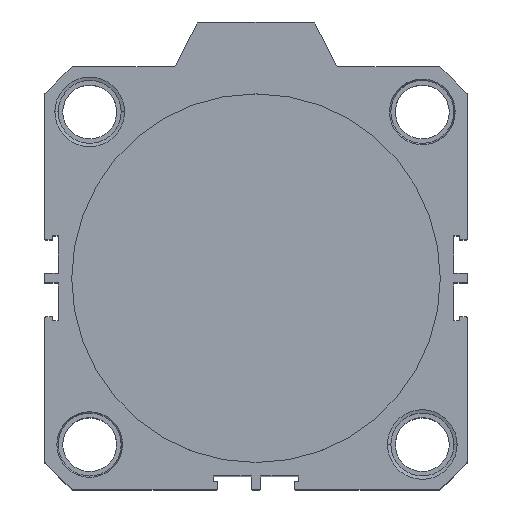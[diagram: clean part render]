
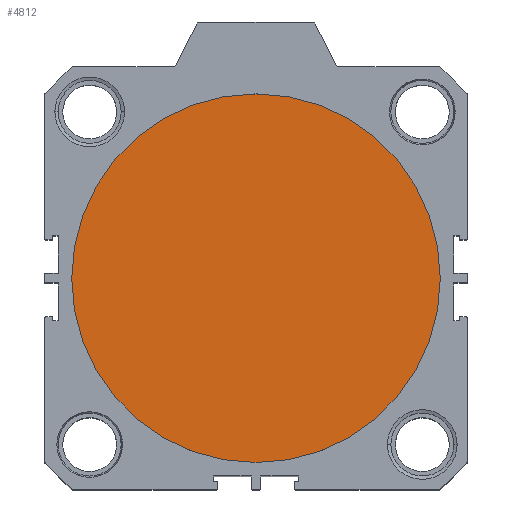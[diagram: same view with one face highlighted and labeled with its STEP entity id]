
A CAD part, top view. The second image highlights one B-rep face of the part: STEP entity #4812.
In plain terms, the highlighted planar face has unit normal (0, 0, 1) as drawn and (-1, 0, 0) by its records, which use the part's own axes.
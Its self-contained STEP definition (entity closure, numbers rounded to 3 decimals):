
#318 = EDGE_CURVE ( 'NONE', #7168, #4270, #3833, .T. ) ;
#924 = AXIS2_PLACEMENT_3D ( 'NONE', #1817, #3160, #1664 ) ;
#1620 = DIRECTION ( 'NONE',  ( 0., 0., 1. ) ) ;
#1664 = DIRECTION ( 'NONE',  ( 0., 0., 1. ) ) ;
#1817 = CARTESIAN_POINT ( 'NONE',  ( -0.8, 0., 0. ) ) ;
#2524 = ORIENTED_EDGE ( 'NONE', *, *, #318, .T. ) ;
#2643 = CIRCLE ( 'NONE', #3293, 41.002 ) ;
#3160 = DIRECTION ( 'NONE',  ( -1., 0., 0. ) ) ;
#3293 = AXIS2_PLACEMENT_3D ( 'NONE', #3745, #3738, #3734 ) ;
#3734 = DIRECTION ( 'NONE',  ( 0., 0., 1. ) ) ;
#3738 = DIRECTION ( 'NONE',  ( -1., 0., 0. ) ) ;
#3743 = ORIENTED_EDGE ( 'NONE', *, *, #7271, .T. ) ;
#3745 = CARTESIAN_POINT ( 'NONE',  ( -0.8, 0., 0. ) ) ;
#3833 = CIRCLE ( 'NONE', #924, 41.002 ) ;
#4270 = VERTEX_POINT ( 'NONE', #6897 ) ;
#4812 = ADVANCED_FACE ( 'NONE', ( #7686 ), #5327, .T. ) ;
#5283 = CARTESIAN_POINT ( 'NONE',  ( -0.8, 0., 0. ) ) ;
#5327 = PLANE ( 'NONE',  #7351 ) ;
#5734 = EDGE_LOOP ( 'NONE', ( #3743, #2524 ) ) ;
#5847 = CARTESIAN_POINT ( 'NONE',  ( -0.8, 41.002, 0. ) ) ;
#6696 = DIRECTION ( 'NONE',  ( -1., 0., 0. ) ) ;
#6897 = CARTESIAN_POINT ( 'NONE',  ( -0.8, -41.002, 0. ) ) ;
#7168 = VERTEX_POINT ( 'NONE', #5847 ) ;
#7271 = EDGE_CURVE ( 'NONE', #4270, #7168, #2643, .T. ) ;
#7351 = AXIS2_PLACEMENT_3D ( 'NONE', #5283, #6696, #1620 ) ;
#7686 = FACE_OUTER_BOUND ( 'NONE', #5734, .T. ) ;
